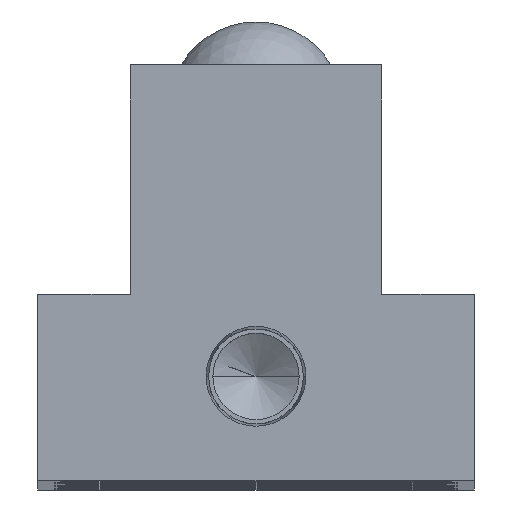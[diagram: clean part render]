
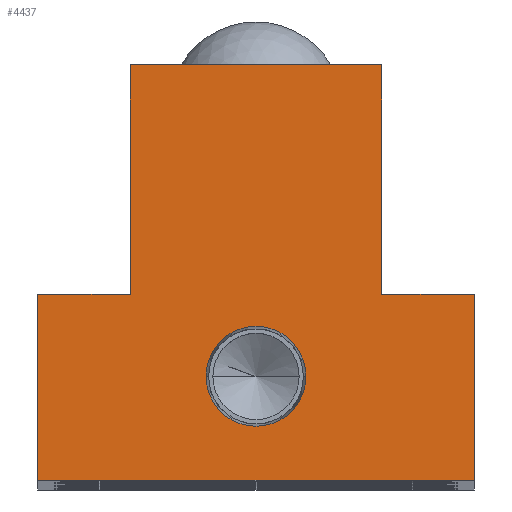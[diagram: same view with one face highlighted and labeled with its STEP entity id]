
A CAD part, top view. The second image highlights one B-rep face of the part: STEP entity #4437.
In plain terms, the highlighted planar face has unit normal (0, 0, 1).
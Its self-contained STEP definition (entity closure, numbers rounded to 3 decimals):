
#111 = LINE ( 'NONE', #1920, #9927 ) ;
#408 = AXIS2_PLACEMENT_3D ( 'NONE', #2360, #8966, #3269 ) ;
#475 = CARTESIAN_POINT ( 'NONE',  ( 0., 9.5, 0. ) ) ;
#935 = CARTESIAN_POINT ( 'NONE',  ( -11.5, 17., 0. ) ) ;
#1126 = CARTESIAN_POINT ( 'NONE',  ( 20., 0., 0. ) ) ;
#1206 = DIRECTION ( 'NONE',  ( -1., 0., 0. ) ) ;
#1437 = EDGE_LOOP ( 'NONE', ( #3429, #1727, #4178, #4053, #10931, #10901, #2065, #1834 ) ) ;
#1456 = DIRECTION ( 'NONE',  ( 1., 0., 0. ) ) ;
#1463 = EDGE_CURVE ( 'NONE', #8075, #10728, #11465, .T. ) ;
#1627 = CARTESIAN_POINT ( 'NONE',  ( 4.574, 9.5, 0. ) ) ;
#1641 = CARTESIAN_POINT ( 'NONE',  ( 20., 17., 0. ) ) ;
#1681 = CARTESIAN_POINT ( 'NONE',  ( -4.574, 9.5, 0. ) ) ;
#1727 = ORIENTED_EDGE ( 'NONE', *, *, #3969, .T. ) ;
#1834 = ORIENTED_EDGE ( 'NONE', *, *, #2594, .T. ) ;
#1849 = DIRECTION ( 'NONE',  ( 0., -1., 0. ) ) ;
#1856 = LINE ( 'NONE', #10504, #6571 ) ;
#1920 = CARTESIAN_POINT ( 'NONE',  ( 20., 0., 0. ) ) ;
#2065 = ORIENTED_EDGE ( 'NONE', *, *, #7358, .T. ) ;
#2267 = LINE ( 'NONE', #11726, #11115 ) ;
#2299 = DIRECTION ( 'NONE',  ( 0., -1., 0. ) ) ;
#2360 = CARTESIAN_POINT ( 'NONE',  ( 0., 9.5, 0. ) ) ;
#2594 = EDGE_CURVE ( 'NONE', #9668, #2737, #9364, .T. ) ;
#2737 = VERTEX_POINT ( 'NONE', #4878 ) ;
#2787 = VECTOR ( 'NONE', #8695, 1000. ) ;
#2803 = DIRECTION ( 'NONE',  ( -1., 0., 0. ) ) ;
#3159 = CARTESIAN_POINT ( 'NONE',  ( -11.5, 38., 0. ) ) ;
#3222 = VERTEX_POINT ( 'NONE', #4914 ) ;
#3269 = DIRECTION ( 'NONE',  ( 1., 0., 0. ) ) ;
#3329 = EDGE_CURVE ( 'NONE', #11396, #5447, #2267, .T. ) ;
#3429 = ORIENTED_EDGE ( 'NONE', *, *, #10175, .T. ) ;
#3585 = AXIS2_PLACEMENT_3D ( 'NONE', #5896, #6841, #1206 ) ;
#3660 = CARTESIAN_POINT ( 'NONE',  ( 20., 17., 0. ) ) ;
#3709 = LINE ( 'NONE', #8523, #4913 ) ;
#3896 = CARTESIAN_POINT ( 'NONE',  ( 11.5, 17., 0. ) ) ;
#3969 = EDGE_CURVE ( 'NONE', #3222, #11342, #6209, .T. ) ;
#4053 = ORIENTED_EDGE ( 'NONE', *, *, #6424, .T. ) ;
#4178 = ORIENTED_EDGE ( 'NONE', *, *, #6494, .T. ) ;
#4437 = ADVANCED_FACE ( 'NONE', ( #9455, #4677 ), #11570, .F. ) ;
#4611 = DIRECTION ( 'NONE',  ( 0., 1., 0. ) ) ;
#4677 = FACE_OUTER_BOUND ( 'NONE', #1437, .T. ) ;
#4789 = DIRECTION ( 'NONE',  ( 1., 0., 0. ) ) ;
#4804 = DIRECTION ( 'NONE',  ( -1., 0., 0. ) ) ;
#4868 = VERTEX_POINT ( 'NONE', #3159 ) ;
#4878 = CARTESIAN_POINT ( 'NONE',  ( 20., 17., 0. ) ) ;
#4913 = VECTOR ( 'NONE', #2803, 1000. ) ;
#4914 = CARTESIAN_POINT ( 'NONE',  ( 11.5, 17., 0. ) ) ;
#5032 = AXIS2_PLACEMENT_3D ( 'NONE', #475, #7095, #1456 ) ;
#5447 = VERTEX_POINT ( 'NONE', #7866 ) ;
#5545 = VECTOR ( 'NONE', #6369, 1000. ) ;
#5896 = CARTESIAN_POINT ( 'NONE',  ( 0., 0., 0. ) ) ;
#6146 = EDGE_LOOP ( 'NONE', ( #8236, #6981 ) ) ;
#6209 = LINE ( 'NONE', #3896, #2787 ) ;
#6369 = DIRECTION ( 'NONE',  ( -1., 0., 0. ) ) ;
#6424 = EDGE_CURVE ( 'NONE', #4868, #9735, #10298, .T. ) ;
#6494 = EDGE_CURVE ( 'NONE', #11342, #4868, #1856, .T. ) ;
#6534 = VECTOR ( 'NONE', #4611, 1000. ) ;
#6571 = VECTOR ( 'NONE', #4804, 1000. ) ;
#6655 = CARTESIAN_POINT ( 'NONE',  ( 11.5, 38., 0. ) ) ;
#6841 = DIRECTION ( 'NONE',  ( 0., 0., -1. ) ) ;
#6981 = ORIENTED_EDGE ( 'NONE', *, *, #1463, .F. ) ;
#7095 = DIRECTION ( 'NONE',  ( 0., 0., 1. ) ) ;
#7358 = EDGE_CURVE ( 'NONE', #5447, #9668, #111, .T. ) ;
#7866 = CARTESIAN_POINT ( 'NONE',  ( -20., 0., 0. ) ) ;
#8041 = CARTESIAN_POINT ( 'NONE',  ( -11.5, 17., 0. ) ) ;
#8075 = VERTEX_POINT ( 'NONE', #1681 ) ;
#8108 = LINE ( 'NONE', #1641, #5545 ) ;
#8236 = ORIENTED_EDGE ( 'NONE', *, *, #8699, .F. ) ;
#8523 = CARTESIAN_POINT ( 'NONE',  ( -11.5, 17., 0. ) ) ;
#8695 = DIRECTION ( 'NONE',  ( 0., 1., 0. ) ) ;
#8699 = EDGE_CURVE ( 'NONE', #10728, #8075, #11530, .T. ) ;
#8966 = DIRECTION ( 'NONE',  ( 0., 0., 1. ) ) ;
#9364 = LINE ( 'NONE', #3660, #6534 ) ;
#9455 = FACE_BOUND ( 'NONE', #6146, .T. ) ;
#9668 = VERTEX_POINT ( 'NONE', #1126 ) ;
#9735 = VERTEX_POINT ( 'NONE', #8041 ) ;
#9927 = VECTOR ( 'NONE', #4789, 1000. ) ;
#10175 = EDGE_CURVE ( 'NONE', #2737, #3222, #8108, .T. ) ;
#10298 = LINE ( 'NONE', #935, #12196 ) ;
#10504 = CARTESIAN_POINT ( 'NONE',  ( 11.5, 38., 0. ) ) ;
#10728 = VERTEX_POINT ( 'NONE', #1627 ) ;
#10901 = ORIENTED_EDGE ( 'NONE', *, *, #3329, .T. ) ;
#10931 = ORIENTED_EDGE ( 'NONE', *, *, #11855, .T. ) ;
#11115 = VECTOR ( 'NONE', #2299, 1000. ) ;
#11342 = VERTEX_POINT ( 'NONE', #6655 ) ;
#11396 = VERTEX_POINT ( 'NONE', #11565 ) ;
#11465 = CIRCLE ( 'NONE', #408, 4.574 ) ;
#11530 = CIRCLE ( 'NONE', #5032, 4.574 ) ;
#11565 = CARTESIAN_POINT ( 'NONE',  ( -20., 17., 0. ) ) ;
#11570 = PLANE ( 'NONE',  #3585 ) ;
#11726 = CARTESIAN_POINT ( 'NONE',  ( -20., 0., 0. ) ) ;
#11855 = EDGE_CURVE ( 'NONE', #9735, #11396, #3709, .T. ) ;
#12196 = VECTOR ( 'NONE', #1849, 1000. ) ;
